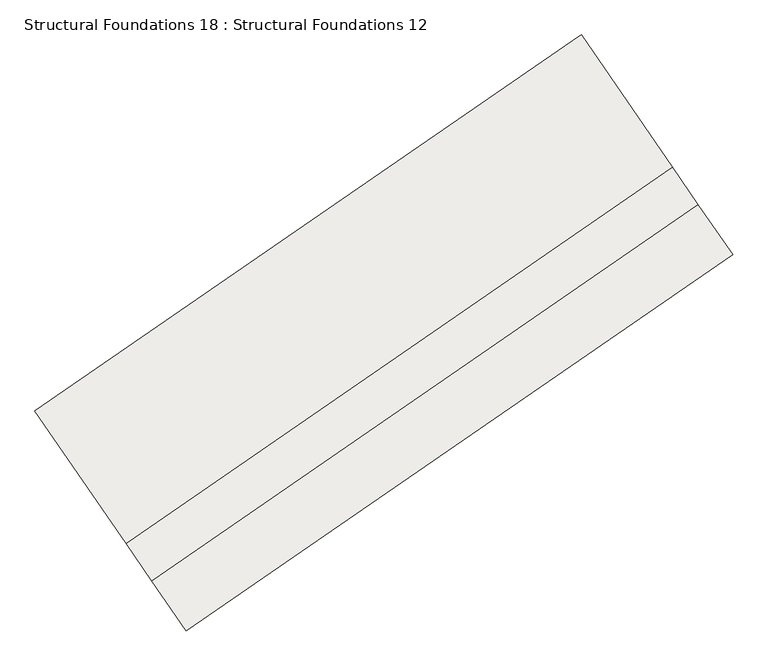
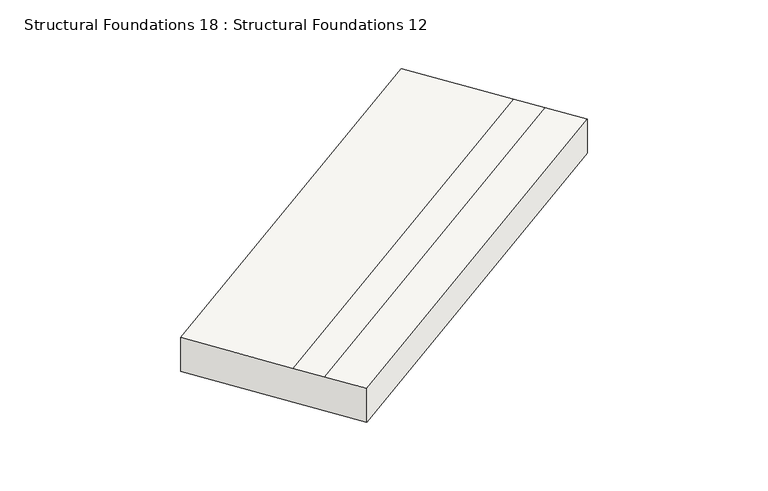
"""IFC4 building model written with IfcOpenShell, lengths in millimetres: slab geometry, Structural Foundations 18 : Structural Foundations 12."""

from ifc_helpers import new_model, si_unit, origin, place, context, project, spatial, faceted_brep, source, transform, mapped, element, save


def structural_foundations_18_structural_foundations_12_b18cd04c(model_context):
    return source(origin(), model_context, "Body", "Brep", [
        faceted_brep([(-297634.8061939, -406130.6425001, 634329.0000005), (-297634.8061939, -406130.6425001, 635029.0000005), (-296440.706086, -407864.1793281, 635029.0000002), (-296103.1813531, -408354.1814233, 635029.0000001), (-295649.3665849, -409013.0077717, 635029.0), (-295649.3665849, -409013.0077717, 634329.0), (-304799.5427263, -411065.8780995, 634256.0000005), (-302814.1031173, -413948.2433711, 634256.0), (-302814.1031173, -413948.2433711, 634956.0), (-303267.9178855, -413289.4170227, 634956.0000001), (-303605.4426183, -412799.4149275, 634956.0000002), (-304799.5427263, -411065.8780995, 634956.0000005)], [[[0, 1, 2, 3, 4, 5]], [[6, 7, 8, 9, 10, 11]], [[6, 11, 1, 0]], [[11, 10, 2, 1]], [[10, 9, 3, 2]], [[9, 8, 4, 3]], [[8, 7, 5, 4]], [[7, 6, 0, 5]]]),
    ])


if __name__ == "__main__":
    model = new_model("IFC4")
    model_context = context("Model", 3, world=origin())
    ifc_project = project(units=[si_unit("LENGTHUNIT", "METRE", prefix="MILLI")], contexts=[model_context])
    site = spatial("IfcSite", under=ifc_project)
    building = spatial("IfcBuilding", under=site)
    placement = place(None, origin())
    structural_foundations_18_structural_foundations_12_shape = structural_foundations_18_structural_foundations_12_b18cd04c(model_context)
    element("IfcSlab", 1, ObjectType="Structural Foundations 18 : Structural Foundations 12", at=placement, inside=building, context=model_context, shape_type="MappedRepresentation", body=[
        mapped(structural_foundations_18_structural_foundations_12_shape, transform((0.0, 0.0, 0.0), x_axis=(1.0, 0.0, 0.0), y_axis=(0.0, 1.0, 0.0), z_axis=(0.0, 0.0, 1.0))),
    ])
    save(model, "model.ifc")
